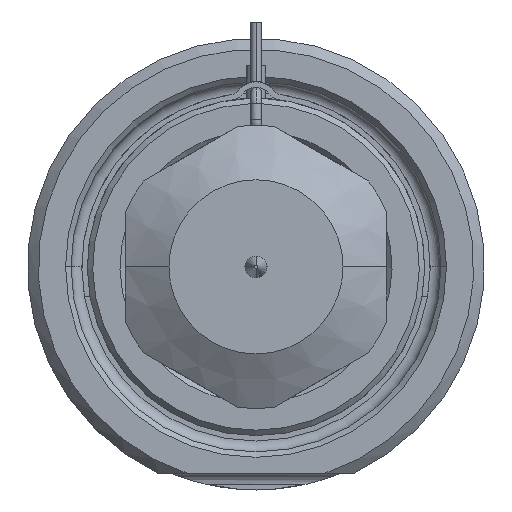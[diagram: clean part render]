
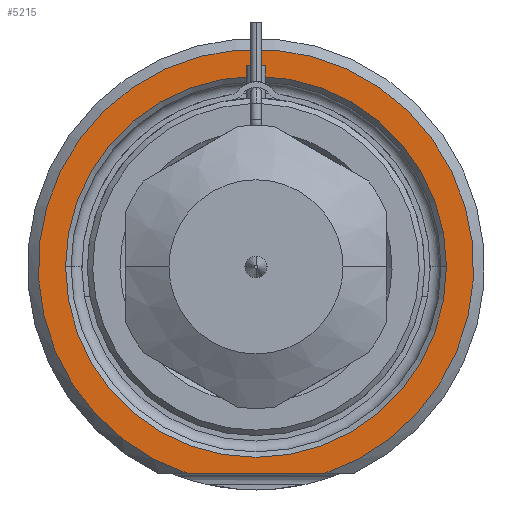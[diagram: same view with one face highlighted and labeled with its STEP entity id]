
A CAD part, front view. The second image highlights one B-rep face of the part: STEP entity #5215.
In plain terms, the highlighted planar face has unit normal (0, -1, 0).
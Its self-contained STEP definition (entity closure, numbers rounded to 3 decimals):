
#1324=CARTESIAN_POINT('',(0.,0.,0.));
#1325=DIRECTION('',(0.,-1.,0.));
#1326=DIRECTION('',(0.312,0.,-0.95));
#1327=AXIS2_PLACEMENT_3D('',#1324,#1325,#1326);
#1348=DIRECTION('',(1.,0.,0.));
#1349=VECTOR('',#1348,12.49);
#1350=CARTESIAN_POINT('',(-6.245,0.,-19.));
#1351=LINE('',#1350,#1349);
#1352=CARTESIAN_POINT('',(0.,0.,0.));
#1353=DIRECTION('',(0.,1.,0.));
#1354=DIRECTION('',(-1.,0.,0.));
#1355=AXIS2_PLACEMENT_3D('',#1352,#1353,#1354);
#1357=CARTESIAN_POINT('',(0.,0.,0.));
#1358=DIRECTION('',(0.,1.,0.));
#1359=DIRECTION('',(1.,0.,0.));
#1360=AXIS2_PLACEMENT_3D('',#1357,#1358,#1359);
#3387=CARTESIAN_POINT('',(-17.5,0.,0.));
#3388=CARTESIAN_POINT('',(17.5,0.,0.));
#3389=VERTEX_POINT('',#3387);
#3390=VERTEX_POINT('',#3388);
#3431=CARTESIAN_POINT('',(-6.245,0.,-19.));
#3432=CARTESIAN_POINT('',(6.245,0.,-19.));
#3433=VERTEX_POINT('',#3431);
#3434=VERTEX_POINT('',#3432);
#5200=CARTESIAN_POINT('',(0.,0.,0.));
#5201=DIRECTION('',(0.,-1.,0.));
#5202=DIRECTION('',(1.,0.,0.));
#5203=AXIS2_PLACEMENT_3D('',#5200,#5201,#5202);
#5204=PLANE('',#5203);
#5205=ORIENTED_EDGE('',*,*,#5132,.F.);
#5206=ORIENTED_EDGE('',*,*,#5192,.F.);
#5207=EDGE_LOOP('',(#5205,#5206));
#5208=FACE_OUTER_BOUND('',#5207,.F.);
#5210=ORIENTED_EDGE('',*,*,#5209,.F.);
#5212=ORIENTED_EDGE('',*,*,#5211,.F.);
#5213=EDGE_LOOP('',(#5210,#5212));
#5214=FACE_BOUND('',#5213,.F.);
#5215=ADVANCED_FACE('',(#5208,#5214),#5204,.T.);
#1328=CIRCLE('',#1327,20.);
#1356=CIRCLE('',#1355,17.5);
#1361=CIRCLE('',#1360,17.5);
#5132=EDGE_CURVE('',#3433,#3434,#1351,.T.);
#5192=EDGE_CURVE('',#3434,#3433,#1328,.T.);
#5209=EDGE_CURVE('',#3389,#3390,#1356,.T.);
#5211=EDGE_CURVE('',#3390,#3389,#1361,.T.);
